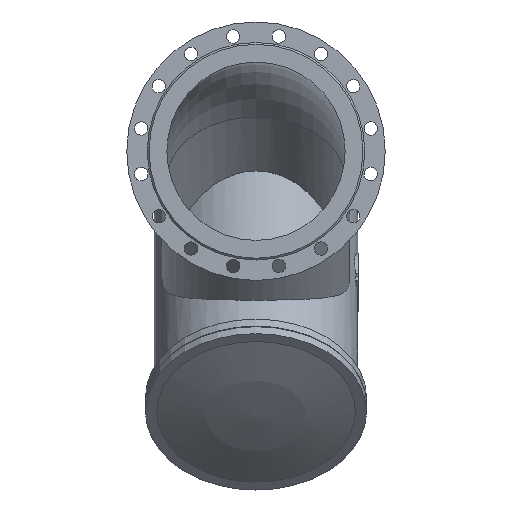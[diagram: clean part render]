
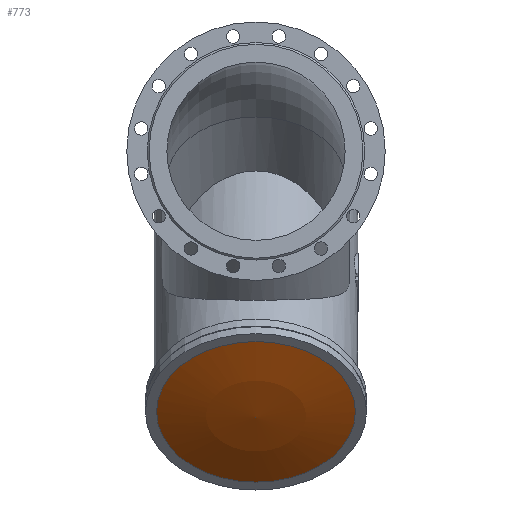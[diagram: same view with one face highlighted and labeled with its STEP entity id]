
A CAD part, front view. The second image highlights one B-rep face of the part: STEP entity #773.
In plain terms, the highlighted spherical face has radius 1390.36 mm.
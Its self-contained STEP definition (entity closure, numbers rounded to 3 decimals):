
#773=ADVANCED_FACE('',(#1660),#1662,.T.);
#1660=FACE_OUTER_BOUND('',#1661,.T.);
#1661=EDGE_LOOP('',(#2048));
#1662=SPHERICAL_SURFACE('',#1663,1390.361);
#1663=AXIS2_PLACEMENT_3D('',#1664,#1665,#1666);
#1664=CARTESIAN_POINT('',(0.,735.768,385.768));
#1665=DIRECTION('',(0.,-0.707,-0.707));
#1666=DIRECTION('',(0.,0.707,-0.707));
#2048=ORIENTED_EDGE('',*,*,#2218,.T.);
#2218=EDGE_CURVE('',#2513,#2513,#2514,.T.);
#2513=VERTEX_POINT('',#4123);
#2514=CIRCLE('',#4124,223.);
#4123=CARTESIAN_POINT('',(0.,-76.953,-742.322));
#4124=AXIS2_PLACEMENT_3D('',#4125,#4126,#4127);
#4125=CARTESIAN_POINT('',(0.,-234.638,-584.638));
#4126=DIRECTION('',(0.,-0.707,-0.707));
#4127=DIRECTION('',(0.,0.707,-0.707));
